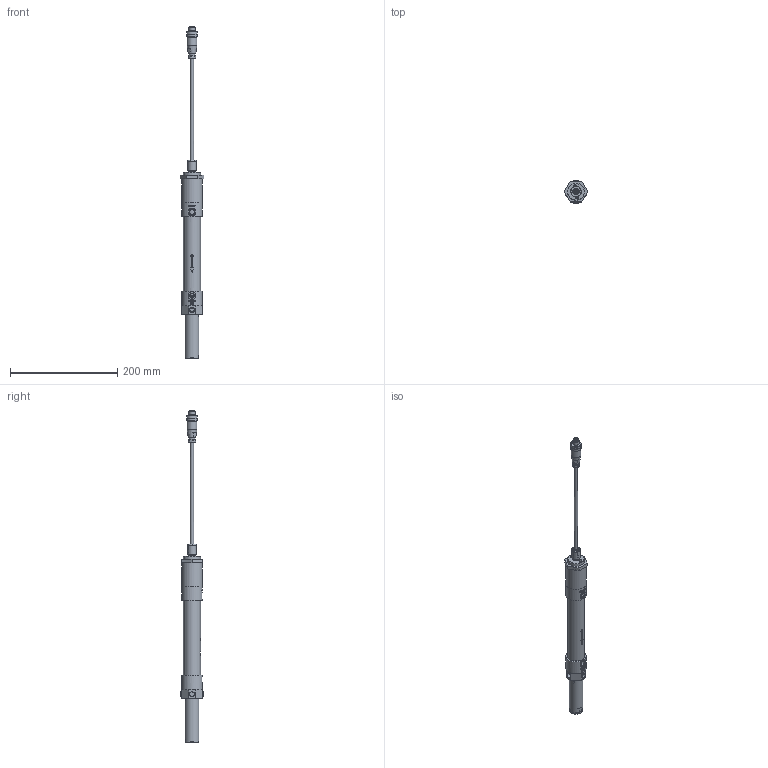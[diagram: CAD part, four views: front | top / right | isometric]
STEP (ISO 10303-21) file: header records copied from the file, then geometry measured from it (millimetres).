
FILE_DESCRIPTION(/* description */ ('ASSY,LVDT,50MM,CLAMP MOUNT,140MM,S2,NHP'),/* implementation_level */ '2;1');
FILE_NAME(/* name */ 'C:\temp\STP\ASSY,LVDT,50MM,CLAMP MOUNT,140MM,S2,NHP.stp',/* time_stamp */ '2016-03-30T11:35:54-04:00',/* author */ ('Simon.Britton'),/* organization */ (''),/* preprocessor_version */ 'ST-DEVELOPER v15.2',/* originating_system */ 'Autodesk Inventor 2014',/* authorisation */ '');
FILE_SCHEMA (('AUTOMOTIVE_DESIGN { 1 0 10303 214 3 1 1 }'));
Products named in the file (1): ASSY,LVDT,50MM,CLAMP MOUNT,140MM,S2,NHP
Bounding box: 43.99 x 42.1 x 617.99 mm (x, y, z)
Volume: 235152.2 mm3; surface area: 121048.7 mm2
Topology: 3 solids, 19 shells, 1345 faces, 3403 edges, 2237 vertices
Faces by surface type: plane 621, bspline 322, cylinder 269, cone 95, torus 33, sphere 5
Full cylindrical faces by diameter (mm): 0.217 x1, 0.559 x4, 0.75 x4, 1 x5, 1.09 x4, 1.5 x1, 1.587 x2, 2 x3, 2.381 x10, 2.79 x1, 2.8 x2, 3 x3, 3.15 x2, 3.175 x1, 3.242 x1, 3.81 x1, 4 x3, 4.763 x2, 5.7 x1, 6 x3, 6.35 x1, 7 x1, 8 x1, 8.3 x1, 8.566 x1, 8.731 x4, 9.459 x2, 9.525 x2, 10 x2, 10.2 x1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
Entity records: 65250 total; most frequent: CARTESIAN_POINT 34816, ORIENTED_EDGE 6092, DIRECTION 5177, EDGE_CURVE 3038, VERTEX_POINT 2109, AXIS2_PLACEMENT_3D 1958, EDGE_LOOP 1793, STYLED_ITEM 1348
